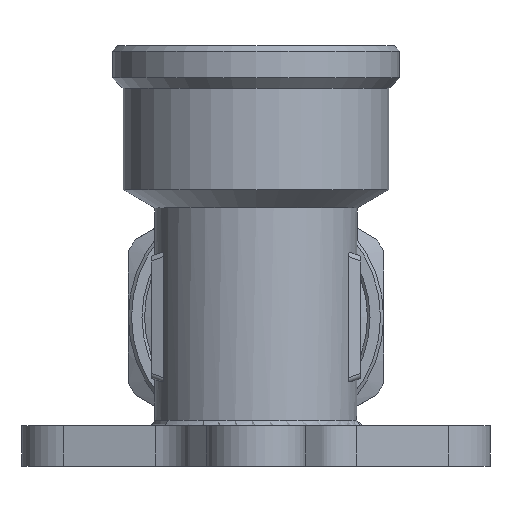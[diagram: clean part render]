
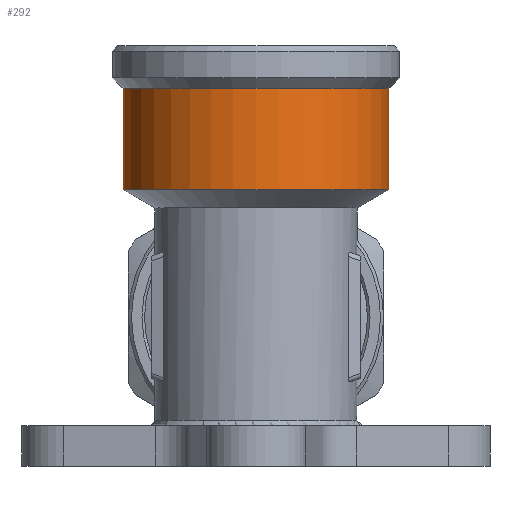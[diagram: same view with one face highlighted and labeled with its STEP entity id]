
A CAD part, front view. The second image highlights one B-rep face of the part: STEP entity #292.
In plain terms, the highlighted cylindrical face has radius 12.5 mm (diameter 25 mm), a full revolution.
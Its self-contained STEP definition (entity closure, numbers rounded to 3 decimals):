
#292=ADVANCED_FACE('',(#2400,#2402),#2404,.T.);
#2400=FACE_OUTER_BOUND('',#2401,.T.);
#2401=EDGE_LOOP('',(#5397));
#2402=FACE_OUTER_BOUND('',#2403,.T.);
#2403=EDGE_LOOP('',(#5398));
#2404=CYLINDRICAL_SURFACE('',#2405,12.5);
#2405=AXIS2_PLACEMENT_3D('',#2406,#2407,#2408);
#2406=CARTESIAN_POINT('',(0.,0.,12.));
#2407=DIRECTION('',(0.,0.,1.));
#2408=DIRECTION('',(0.,1.,0.));
#5397=ORIENTED_EDGE('',*,*,#7549,.F.);
#5398=ORIENTED_EDGE('',*,*,#7119,.F.);
#7119=EDGE_CURVE('',#8531,#8531,#8532,.F.);
#7549=EDGE_CURVE('',#9210,#9210,#9211,.T.);
#8531=VERTEX_POINT('',#11756);
#8532=CIRCLE('',#11757,12.5);
#9210=VERTEX_POINT('',#13573);
#9211=CIRCLE('',#13574,12.5);
#11756=CARTESIAN_POINT('',(0.,12.5,12.));
#11757=AXIS2_PLACEMENT_3D('',#11758,#11759,#11760);
#11758=CARTESIAN_POINT('',(0.,0.,12.));
#11759=DIRECTION('',(0.,0.,1.));
#11760=DIRECTION('',(0.,1.,0.));
#13573=CARTESIAN_POINT('',(0.,12.5,21.5));
#13574=AXIS2_PLACEMENT_3D('',#13575,#13576,#13577);
#13575=CARTESIAN_POINT('',(0.,0.,21.5));
#13576=DIRECTION('',(0.,0.,1.));
#13577=DIRECTION('',(0.,1.,0.));
